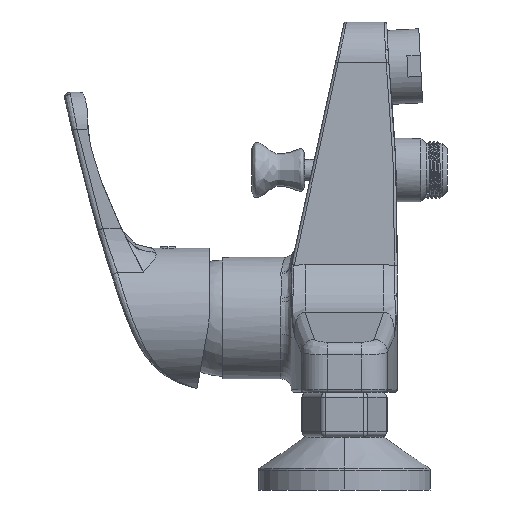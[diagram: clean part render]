
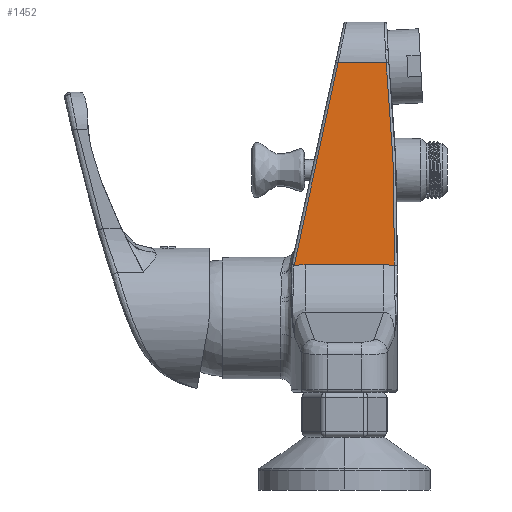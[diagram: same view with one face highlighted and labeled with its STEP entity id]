
A CAD part, left-side view. The second image highlights one B-rep face of the part: STEP entity #1452.
In plain terms, the highlighted planar face has unit normal (-1, 0, 0.033).
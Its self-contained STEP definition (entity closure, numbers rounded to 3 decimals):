
#183 = EDGE_CURVE ( 'NONE', #6056, #5118, #6304, .T. ) ;
#189 = LINE ( 'NONE', #10814, #1615 ) ;
#200 = CARTESIAN_POINT ( 'NONE',  ( -18.997, -19., 48.077 ) ) ;
#450 = VERTEX_POINT ( 'NONE', #10378 ) ;
#545 = VECTOR ( 'NONE', #6363, 1000. ) ;
#592 = EDGE_LOOP ( 'NONE', ( #8624, #8928, #8984, #7375, #8759, #8722, #8956 ) ) ;
#698 = CARTESIAN_POINT ( 'NONE',  ( -18.996, 14.807, 48.118 ) ) ;
#1053 = CARTESIAN_POINT ( 'NONE',  ( -17.334, -17.816, 99.086 ) ) ;
#1452 = ADVANCED_FACE ( 'NONE', ( #2766 ), #6874, .T. ) ;
#1531 = DIRECTION ( 'NONE',  ( 0.033, 0., 0.999 ) ) ;
#1615 = VECTOR ( 'NONE', #5376, 1000. ) ;
#1685 = EDGE_CURVE ( 'NONE', #450, #10049, #1754, .T. ) ;
#1754 = B_SPLINE_CURVE_WITH_KNOTS ( 'NONE', 3,
 ( #8734, #4327, #2444, #698 ),
 .UNSPECIFIED., .F., .F.,
 ( 4, 4 ),
 ( 0.001, 0.005 ),
 .UNSPECIFIED. ) ;
#1823 = CARTESIAN_POINT ( 'NONE',  ( -16.712, -16.273, 118.157 ) ) ;
#1899 = CARTESIAN_POINT ( 'NONE',  ( -18.581, -19., 60.847 ) ) ;
#1984 = CARTESIAN_POINT ( 'NONE',  ( -17.179, -17.478, 103.857 ) ) ;
#1990 = CARTESIAN_POINT ( 'NONE',  ( -16.505, -15.847, 124.521 ) ) ;
#2444 = CARTESIAN_POINT ( 'NONE',  ( -18.996, 16.194, 48.118 ) ) ;
#2462 = B_SPLINE_CURVE_WITH_KNOTS ( 'NONE', 3,
 ( #6624, #11108, #8354, #200 ),
 .UNSPECIFIED., .F., .F.,
 ( 4, 4 ),
 ( 0., 0.004 ),
 .UNSPECIFIED. ) ;
#2766 = FACE_OUTER_BOUND ( 'NONE', #592, .T. ) ;
#2799 = CARTESIAN_POINT ( 'NONE',  ( -17.49, -18.117, 94.313 ) ) ;
#2948 = LINE ( 'NONE', #11782, #545 ) ;
#3276 = CARTESIAN_POINT ( 'NONE',  ( -16.505, -20., 124.521 ) ) ;
#3878 = VECTOR ( 'NONE', #10970, 1000. ) ;
#3976 = EDGE_CURVE ( 'NONE', #4786, #9275, #2948, .T. ) ;
#4177 = DIRECTION ( 'NONE',  ( 0., 1., 0. ) ) ;
#4327 = CARTESIAN_POINT ( 'NONE',  ( -18.997, 17.58, 48.102 ) ) ;
#4346 = B_SPLINE_CURVE_WITH_KNOTS ( 'NONE', 3,
 ( #5494, #1899, #7308, #10071, #2799, #1053, #7386, #1984, #9195, #1823, #5534 ),
 .UNSPECIFIED., .F., .F.,
 ( 4, 2, 1, 2, 2, 4 ),
 ( 0., 0.038, 0.048, 0.053, 0.057, 0.077 ),
 .UNSPECIFIED. ) ;
#4610 = CARTESIAN_POINT ( 'NONE',  ( -18.996, 0., 48.118 ) ) ;
#4786 = VERTEX_POINT ( 'NONE', #11481 ) ;
#5118 = VERTEX_POINT ( 'NONE', #7788 ) ;
#5337 = CARTESIAN_POINT ( 'NONE',  ( -18.996, 14.807, 48.118 ) ) ;
#5376 = DIRECTION ( 'NONE',  ( -0.032, 0.212, -0.977 ) ) ;
#5494 = CARTESIAN_POINT ( 'NONE',  ( -18.997, -19., 48.092 ) ) ;
#5534 = CARTESIAN_POINT ( 'NONE',  ( -16.505, -15.847, 124.521 ) ) ;
#5717 = LINE ( 'NONE', #4610, #3878 ) ;
#5922 = VERTEX_POINT ( 'NONE', #10040 ) ;
#6056 = VERTEX_POINT ( 'NONE', #1990 ) ;
#6304 = LINE ( 'NONE', #3276, #10174 ) ;
#6363 = DIRECTION ( 'NONE',  ( 0.033, 0., 0.999 ) ) ;
#6624 = CARTESIAN_POINT ( 'NONE',  ( -18.996, -14.807, 48.118 ) ) ;
#6859 = CARTESIAN_POINT ( 'NONE',  ( -19., -20., 48. ) ) ;
#6874 = PLANE ( 'NONE',  #7186 ) ;
#7109 = DIRECTION ( 'NONE',  ( -0.999, 0., 0.033 ) ) ;
#7186 = AXIS2_PLACEMENT_3D ( 'NONE', #6859, #7109, #1531 ) ;
#7308 = CARTESIAN_POINT ( 'NONE',  ( -18.165, -18.953, 73.605 ) ) ;
#7375 = ORIENTED_EDGE ( 'NONE', *, *, #183, .T. ) ;
#7386 = CARTESIAN_POINT ( 'NONE',  ( -17.23, -17.597, 102.267 ) ) ;
#7788 = CARTESIAN_POINT ( 'NONE',  ( -16.505, 2.349, 124.521 ) ) ;
#8280 = EDGE_CURVE ( 'NONE', #5922, #4786, #2462, .T. ) ;
#8354 = CARTESIAN_POINT ( 'NONE',  ( -18.997, -17.602, 48.102 ) ) ;
#8624 = ORIENTED_EDGE ( 'NONE', *, *, #8280, .T. ) ;
#8647 = CARTESIAN_POINT ( 'NONE',  ( -18.997, -19., 48.092 ) ) ;
#8722 = ORIENTED_EDGE ( 'NONE', *, *, #1685, .T. ) ;
#8734 = CARTESIAN_POINT ( 'NONE',  ( -18.997, 18.967, 48.078 ) ) ;
#8759 = ORIENTED_EDGE ( 'NONE', *, *, #10148, .T. ) ;
#8928 = ORIENTED_EDGE ( 'NONE', *, *, #3976, .T. ) ;
#8956 = ORIENTED_EDGE ( 'NONE', *, *, #9544, .T. ) ;
#8984 = ORIENTED_EDGE ( 'NONE', *, *, #10807, .T. ) ;
#9195 = CARTESIAN_POINT ( 'NONE',  ( -16.919, -16.857, 111.806 ) ) ;
#9275 = VERTEX_POINT ( 'NONE', #8647 ) ;
#9544 = EDGE_CURVE ( 'NONE', #10049, #5922, #5717, .T. ) ;
#10040 = CARTESIAN_POINT ( 'NONE',  ( -18.996, -14.807, 48.118 ) ) ;
#10049 = VERTEX_POINT ( 'NONE', #5337 ) ;
#10071 = CARTESIAN_POINT ( 'NONE',  ( -17.646, -18.342, 89.536 ) ) ;
#10148 = EDGE_CURVE ( 'NONE', #5118, #450, #189, .T. ) ;
#10174 = VECTOR ( 'NONE', #4177, 1000. ) ;
#10378 = CARTESIAN_POINT ( 'NONE',  ( -18.997, 18.967, 48.078 ) ) ;
#10807 = EDGE_CURVE ( 'NONE', #9275, #6056, #4346, .T. ) ;
#10814 = CARTESIAN_POINT ( 'NONE',  ( -19.005, 19.017, 47.849 ) ) ;
#10970 = DIRECTION ( 'NONE',  ( 0., -1., 0. ) ) ;
#11108 = CARTESIAN_POINT ( 'NONE',  ( -18.996, -16.205, 48.118 ) ) ;
#11481 = CARTESIAN_POINT ( 'NONE',  ( -18.997, -19., 48.077 ) ) ;
#11782 = CARTESIAN_POINT ( 'NONE',  ( -19., -19., 48. ) ) ;
